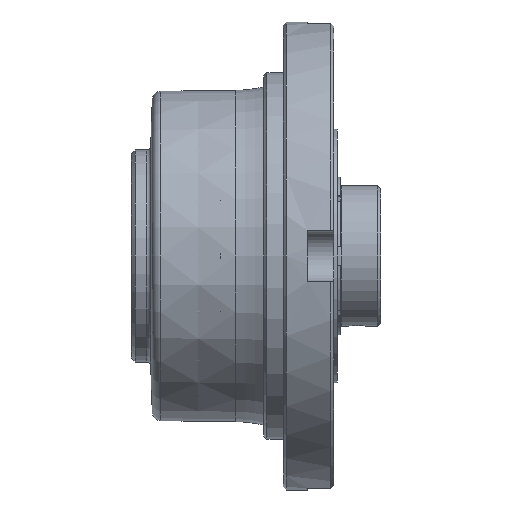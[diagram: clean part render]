
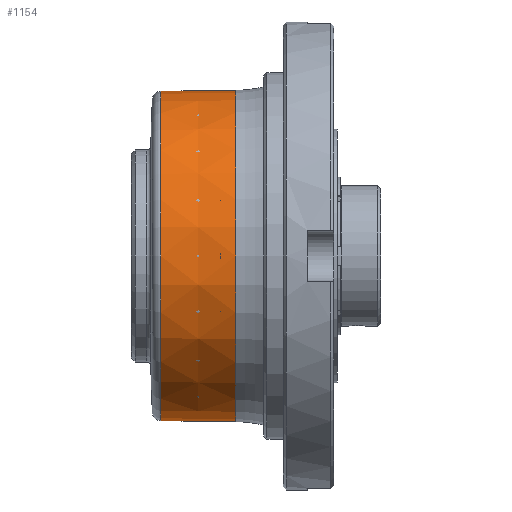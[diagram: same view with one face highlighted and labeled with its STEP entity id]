
A CAD part, front view. The second image highlights one B-rep face of the part: STEP entity #1154.
In plain terms, the highlighted conical face has half-angle 0.7 degrees and reference radius 21.239 mm.
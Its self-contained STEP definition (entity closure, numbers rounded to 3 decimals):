
#124 = AXIS2_PLACEMENT_3D ( 'NONE', #8583, #1812, #9734 ) ;
#188 = ORIENTED_EDGE ( 'NONE', *, *, #11499, .T. ) ;
#277 = DIRECTION ( 'NONE',  ( 1., 0., -0.012 ) ) ;
#668 = LINE ( 'NONE', #8200, #12705 ) ;
#1154 = ADVANCED_FACE ( 'NONE', ( #11108 ), #7700, .T. ) ;
#1218 = EDGE_CURVE ( 'NONE', #12598, #7923, #13400, .T. ) ;
#1812 = DIRECTION ( 'NONE',  ( -1., 0., 0. ) ) ;
#2167 = EDGE_CURVE ( 'NONE', #7923, #8376, #6047, .T. ) ;
#2302 = ORIENTED_EDGE ( 'NONE', *, *, #9085, .T. ) ;
#2698 = CARTESIAN_POINT ( 'NONE',  ( 13.393, 0., 21.239 ) ) ;
#3074 = ORIENTED_EDGE ( 'NONE', *, *, #2167, .F. ) ;
#3293 = DIRECTION ( 'NONE',  ( -1., 0., 0. ) ) ;
#4151 = CARTESIAN_POINT ( 'NONE',  ( 3.787, 0., 21.121 ) ) ;
#4238 = DIRECTION ( 'NONE',  ( 1., 0., 0. ) ) ;
#4610 = AXIS2_PLACEMENT_3D ( 'NONE', #10108, #3293, #11264 ) ;
#4819 = CARTESIAN_POINT ( 'NONE',  ( 3.787, 0., -21.121 ) ) ;
#6047 = LINE ( 'NONE', #2698, #8749 ) ;
#6745 = CIRCLE ( 'NONE', #124, 21.239 ) ;
#7621 = ORIENTED_EDGE ( 'NONE', *, *, #1218, .F. ) ;
#7622 = EDGE_LOOP ( 'NONE', ( #3074, #7621, #2302, #188 ) ) ;
#7700 = CONICAL_SURFACE ( 'NONE', #13303, 21.239, 0.012 ) ;
#7923 = VERTEX_POINT ( 'NONE', #4151 ) ;
#8200 = CARTESIAN_POINT ( 'NONE',  ( 13.393, 0., -21.239 ) ) ;
#8376 = VERTEX_POINT ( 'NONE', #10758 ) ;
#8583 = CARTESIAN_POINT ( 'NONE',  ( 13.393, 0., 0. ) ) ;
#8721 = DIRECTION ( 'NONE',  ( 0., 0., -1. ) ) ;
#8749 = VECTOR ( 'NONE', #11786, 1000. ) ;
#9085 = EDGE_CURVE ( 'NONE', #12598, #10833, #668, .T. ) ;
#9734 = DIRECTION ( 'NONE',  ( 0., 0., 1. ) ) ;
#9929 = CARTESIAN_POINT ( 'NONE',  ( 13.393, 0., 0. ) ) ;
#10108 = CARTESIAN_POINT ( 'NONE',  ( 3.787, 0., 0. ) ) ;
#10758 = CARTESIAN_POINT ( 'NONE',  ( 13.393, 0., 21.239 ) ) ;
#10833 = VERTEX_POINT ( 'NONE', #11759 ) ;
#11108 = FACE_OUTER_BOUND ( 'NONE', #7622, .T. ) ;
#11264 = DIRECTION ( 'NONE',  ( 0., 0., 1. ) ) ;
#11499 = EDGE_CURVE ( 'NONE', #10833, #8376, #6745, .T. ) ;
#11759 = CARTESIAN_POINT ( 'NONE',  ( 13.393, 0., -21.239 ) ) ;
#11786 = DIRECTION ( 'NONE',  ( 1., 0., 0.012 ) ) ;
#12598 = VERTEX_POINT ( 'NONE', #4819 ) ;
#12705 = VECTOR ( 'NONE', #277, 1000. ) ;
#13303 = AXIS2_PLACEMENT_3D ( 'NONE', #9929, #4238, #8721 ) ;
#13400 = CIRCLE ( 'NONE', #4610, 21.121 ) ;
